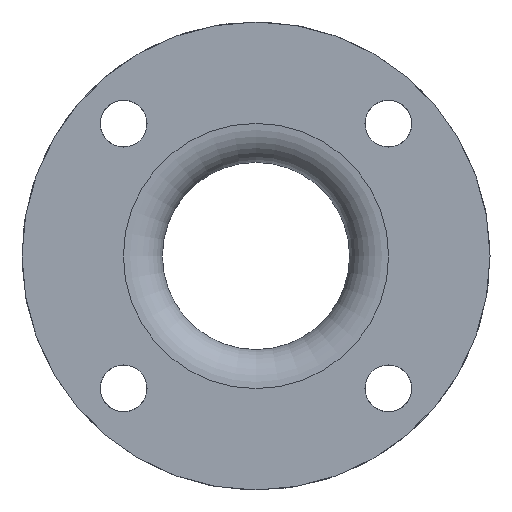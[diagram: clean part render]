
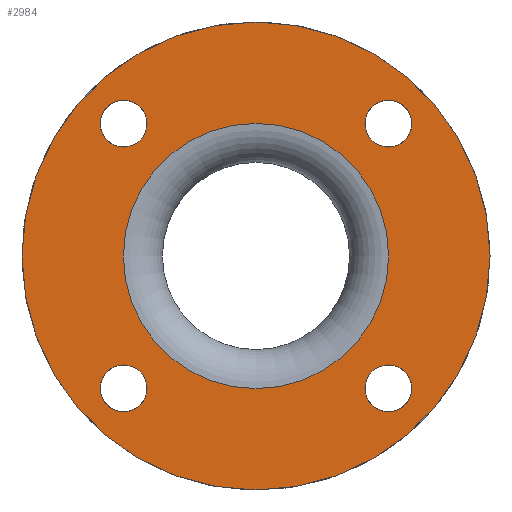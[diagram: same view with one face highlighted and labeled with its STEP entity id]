
A CAD part, front view. The second image highlights one B-rep face of the part: STEP entity #2984.
In plain terms, the highlighted planar face has unit normal (0, -1, 0).
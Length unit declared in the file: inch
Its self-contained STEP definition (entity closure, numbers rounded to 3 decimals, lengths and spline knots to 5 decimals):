
#93=FACE_BOUND('',#471,.T.);
#94=FACE_BOUND('',#472,.T.);
#95=FACE_BOUND('',#473,.T.);
#96=FACE_BOUND('',#474,.T.);
#97=FACE_BOUND('',#475,.T.);
#145=PLANE('',#3279);
#259=FACE_OUTER_BOUND('',#470,.T.);
#470=EDGE_LOOP('',(#2244));
#471=EDGE_LOOP('',(#2245));
#472=EDGE_LOOP('',(#2246));
#473=EDGE_LOOP('',(#2247));
#474=EDGE_LOOP('',(#2248));
#475=EDGE_LOOP('',(#2249));
#991=CIRCLE('',#3236,0.375);
#993=CIRCLE('',#3239,0.375);
#995=CIRCLE('',#3242,0.375);
#997=CIRCLE('',#3245,0.375);
#1016=CIRCLE('',#3278,3.75);
#1017=CIRCLE('',#3280,2.125);
#1251=VERTEX_POINT('',#4908);
#1253=VERTEX_POINT('',#4913);
#1255=VERTEX_POINT('',#4918);
#1257=VERTEX_POINT('',#4923);
#1276=VERTEX_POINT('',#4975);
#1277=VERTEX_POINT('',#4978);
#1599=EDGE_CURVE('',#1251,#1251,#991,.T.);
#1601=EDGE_CURVE('',#1253,#1253,#993,.T.);
#1603=EDGE_CURVE('',#1255,#1255,#995,.T.);
#1605=EDGE_CURVE('',#1257,#1257,#997,.T.);
#1624=EDGE_CURVE('',#1276,#1276,#1016,.T.);
#1625=EDGE_CURVE('',#1277,#1277,#1017,.T.);
#2244=ORIENTED_EDGE('',*,*,#1624,.T.);
#2245=ORIENTED_EDGE('',*,*,#1599,.T.);
#2246=ORIENTED_EDGE('',*,*,#1601,.T.);
#2247=ORIENTED_EDGE('',*,*,#1603,.T.);
#2248=ORIENTED_EDGE('',*,*,#1605,.T.);
#2249=ORIENTED_EDGE('',*,*,#1625,.F.);
#2984=ADVANCED_FACE('',(#259,#93,#94,#95,#96,#97),#145,.T.);
#3236=AXIS2_PLACEMENT_3D('',#4909,#3887,#3888);
#3239=AXIS2_PLACEMENT_3D('',#4914,#3893,#3894);
#3242=AXIS2_PLACEMENT_3D('',#4919,#3899,#3900);
#3245=AXIS2_PLACEMENT_3D('',#4924,#3905,#3906);
#3278=AXIS2_PLACEMENT_3D('',#4976,#3971,#3972);
#3279=AXIS2_PLACEMENT_3D('',#4977,#3973,#3974);
#3280=AXIS2_PLACEMENT_3D('',#4979,#3975,#3976);
#3887=DIRECTION('center_axis',(0.,1.,0.));
#3888=DIRECTION('ref_axis',(1.,0.,0.));
#3893=DIRECTION('center_axis',(0.,1.,0.));
#3894=DIRECTION('ref_axis',(0.,0.,
-1.));
#3899=DIRECTION('center_axis',(0.,1.,0.));
#3900=DIRECTION('ref_axis',(-1.,0.,0.));
#3905=DIRECTION('center_axis',(0.,1.,0.));
#3906=DIRECTION('ref_axis',(0.,0.,1.));
#3971=DIRECTION('center_axis',(0.,-1.,0.));
#3972=DIRECTION('ref_axis',(1.,0.,0.));
#3973=DIRECTION('center_axis',(0.,-1.,0.));
#3974=DIRECTION('ref_axis',(0.,0.,-1.));
#3975=DIRECTION('center_axis',(0.,-1.,0.));
#3976=DIRECTION('ref_axis',(1.,0.,0.));
#4908=CARTESIAN_POINT('',(1.74632,-6.,-2.12132));
#4909=CARTESIAN_POINT('Origin',(2.12132,-6.,-2.12132));
#4913=CARTESIAN_POINT('',(-2.12132,-6.,-1.74632));
#4914=CARTESIAN_POINT('Origin',(-2.12132,-6.,-2.12132));
#4918=CARTESIAN_POINT('',(-1.74632,-6.,2.12132));
#4919=CARTESIAN_POINT('Origin',(-2.12132,-6.,2.12132));
#4923=CARTESIAN_POINT('',(2.12132,-6.,1.74632));
#4924=CARTESIAN_POINT('Origin',(2.12132,-6.,2.12132));
#4975=CARTESIAN_POINT('',(3.75,-6.,0.));
#4976=CARTESIAN_POINT('Origin',(0.,-6.,
0.));
#4977=CARTESIAN_POINT('Origin',(2.9375,-6.,0.));
#4978=CARTESIAN_POINT('',(2.125,-6.,0.));
#4979=CARTESIAN_POINT('Origin',(0.,-6.,0.));
